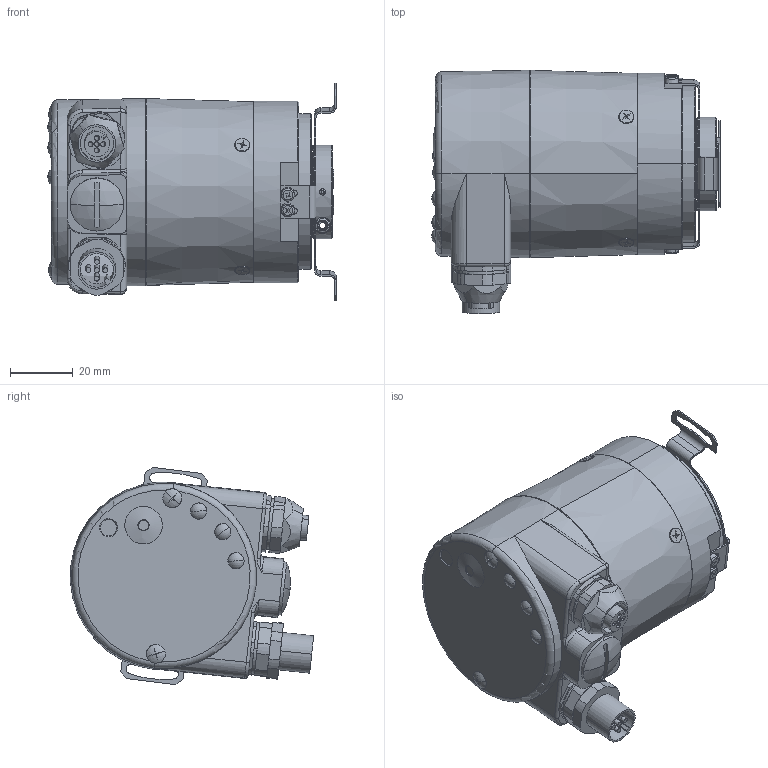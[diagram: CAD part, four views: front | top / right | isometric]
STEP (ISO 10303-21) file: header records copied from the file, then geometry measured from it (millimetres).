
FILE_DESCRIPTION (( 'STEP AP214' ), '1' );
FILE_NAME ('5888.5422.XXXX.STEP', '2008-07-11T11:58:17', ( 'admin' ), ( 'Fritz Kübler GmbH' ), 'SwSTEP 2.0', 'SolidWorks 2007', '' );
FILE_SCHEMA (( 'AUTOMOTIVE_DESIGN' ));
Length unit declared in the file: millimetre
Products named in the file (1): 5888.5422.XXXX
Bounding box: 92.17 x 77.69 x 69.44 mm (x, y, z)
Surface area: 34653.4 mm2 (no closed solid volume)
Topology: 0 solids, 32 shells, 585 faces, 1605 edges, 1038 vertices
Faces by surface type: plane 276, cylinder 209, cone 55, torus 23, sphere 13, bspline 9
Entity records: 25844 total; most frequent: CARTESIAN_POINT 4407, DIRECTION 3279, ORIENTED_EDGE 2895, EDGE_CURVE 1600, AXIS2_PLACEMENT_3D 1198, VERTEX_POINT 1038, VECTOR 883, LINE 883
